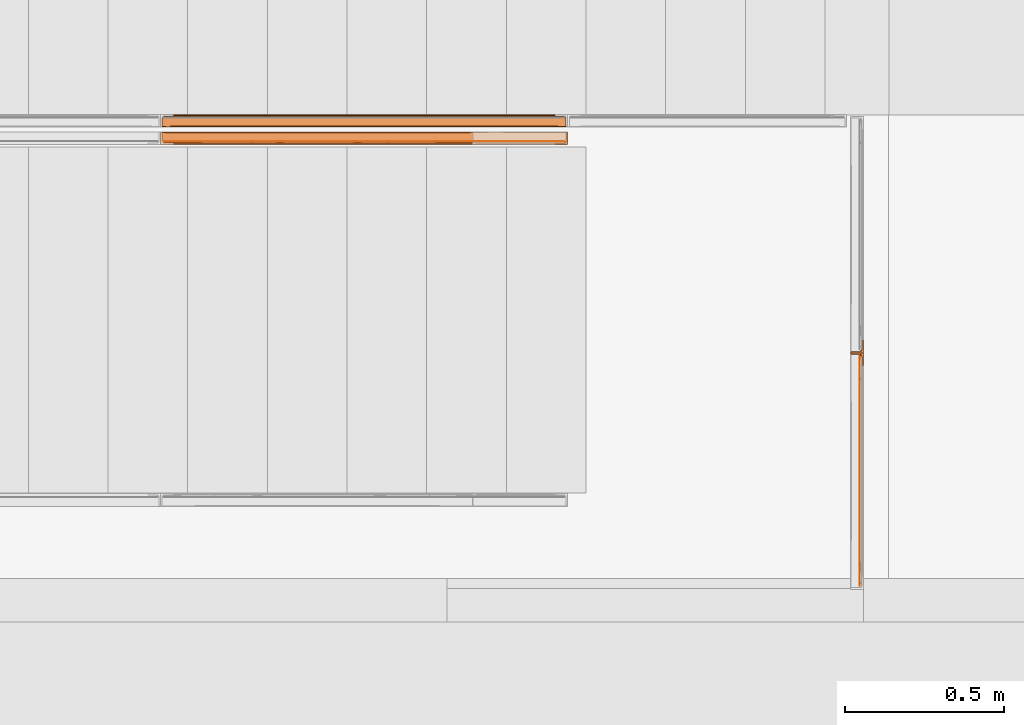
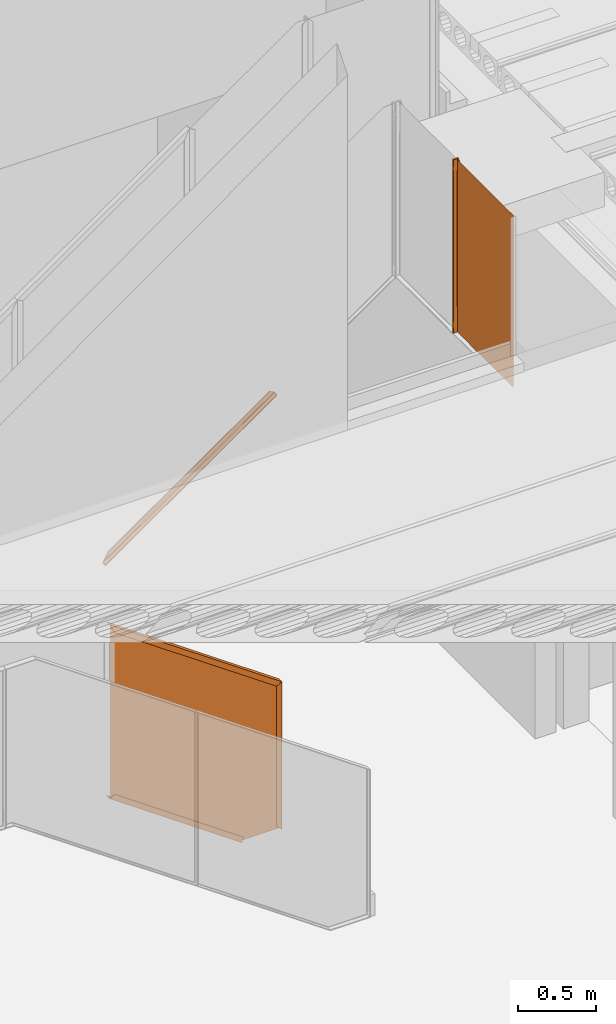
# One storey, part 223 of 230: 8 proxies.
"""IFC4X3_ADD2 building model written with IfcOpenShell, lengths in millimetres."""

from ifc_helpers import new_model, si_unit, direction, frame, origin_with_axes, place, context, subcontext, project, spatial, triangles, polygons, source, transform, mapped, material, type_object, type_shapes, element, save


model = new_model("IFC4X3_ADD2")

# Units and contexts
model_context = context("Model", 3, precision=1e-05, world=origin_with_axes(), true_north=direction((0.0, 1.0)))
body_context = subcontext(model_context, "Body", "Model", "MODEL_VIEW")
ifc_project = project(units=[si_unit("LENGTHUNIT", "METRE", prefix="MILLI"), si_unit("AREAUNIT", "SQUARE_METRE"), si_unit("VOLUMEUNIT", "CUBIC_METRE"), si_unit("PLANEANGLEUNIT", "RADIAN"), si_unit("TIMEUNIT", "SECOND"), si_unit("MASSUNIT", "GRAM")], contexts=[model_context])

# Site, building, storey
site_placement = place(None, origin_with_axes())
site = spatial("IfcSite", under=ifc_project, at=site_placement, Name="Site", CompositionType="ELEMENT")
building_placement = place(site_placement, origin_with_axes())
building = spatial("IfcBuilding", under=site, at=building_placement, Name="IFC Building Story")
storey_placement = place(building_placement, origin_with_axes())
storey = spatial("IfcBuildingStorey", under=building, at=storey_placement, Name="ETAGE 00 (0)", Elevation=0.0)

# Proxies
ifc_material = material(Name="<Unnamed>")
building_element_proxy_type_1 = type_object("IfcBuildingElementProxyType", Name="17", PredefinedType="NOTDEFINED")
shared_shape_1 = source(origin_with_axes(), body_context, "Body", "Tessellation", [
    polygons([(40.0000006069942, 0.0, 708.609635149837), (40.0000006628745, 1.99999910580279, 708.609635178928), (991.648139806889, 1.99999910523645, 40.0000003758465), (991.648139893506, 0.0, 40.00000024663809), (979.03618816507, 40.0, 0.0), (979.666785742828, 40.0, 2.0), (735.250089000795, 40.0, 173.707022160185), (246.416695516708, 40.0, 517.121066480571), (2.00000003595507, 40.0, 688.828087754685), (0.0, 40.0, 687.786953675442), (0.0, 0.0, 687.786953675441), (3.78223442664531, 39.4828827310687, 689.75586021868), (4.60444841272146, 38.5894394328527, 690.1838777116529), (5.000000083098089, 37.0000000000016, 690.389788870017), (5.000000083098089, 11.0000000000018, 690.389788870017), (5.12250915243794, 9.66173239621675, 690.453563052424), (5.72236770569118, 7.93305209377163, 690.765829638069), (6.97422061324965, 6.374650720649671, 691.417502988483), (8.62096939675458, 5.41338075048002, 692.2747461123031), (11.000000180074, 4.99999999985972, 693.513191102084), (37.0000006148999, 5.00000000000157, 707.0479341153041), (38.7828648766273, 4.481239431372, 707.9760344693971), (39.6040891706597, 3.58835486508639, 708.4035367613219), (980.649713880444, 9.698712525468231, 5.11744977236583), (494.769483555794, 7.99473516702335, 349.964452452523), (492.8063421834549, 11.0, 347.694893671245), (980.612682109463, 10.9999999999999, 5.0), (980.834811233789, 7.9807760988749, 5.704503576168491), (981.201028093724, 6.48005871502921, 6.86599506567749), (982.5044748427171, 5.000000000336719, 10.9999999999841), (981.697970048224, 5.48840116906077, 8.44209358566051), (990.70224335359, 5.00000000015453, 37.000000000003), (752.276682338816, 5.00000000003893, 204.511983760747), (275.425560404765, 4.99999999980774, 539.535951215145), (991.2135495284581, 4.57990552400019, 38.6216560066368), (991.5092714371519, 3.65668204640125, 39.559566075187), (980.177893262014, 39.5813205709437, 3.62102595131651), (980.4739634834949, 38.6576496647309, 4.56004072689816), (980.612821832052, 37.0002431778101, 5.000198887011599), (979.03618816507, 0.0, 0.0)], [[[1, 2, 3, 4]], [[8, 9, 10]], [[10, 7, 8]], [[10, 5, 7]], [[5, 6, 7]], [[20, 21, 22]], [[20, 22, 23]], [[20, 23, 2]], [[20, 2, 1]], [[20, 1, 11]], [[11, 19, 20]], [[11, 18, 19]], [[11, 17, 18]], [[11, 16, 17]], [[11, 15, 16]], [[11, 10, 9]], [[11, 9, 12]], [[11, 12, 13]], [[11, 13, 14]], [[11, 14, 15]], [[24, 25, 26]], [[26, 27, 24]], [[28, 29, 25]], [[25, 24, 28]], [[30, 20, 25]], [[25, 31, 30]], [[25, 29, 31]], [[17, 16, 25]], [[26, 25, 16]], [[16, 15, 26]], [[18, 17, 25]], [[20, 19, 25]], [[25, 19, 18]], [[34, 21, 20]], [[20, 33, 34]], [[20, 30, 33]], [[30, 32, 33]], [[35, 36, 33]], [[3, 2, 34, 33]], [[33, 36, 3]], [[2, 23, 34]], [[22, 21, 34]], [[34, 23, 22]], [[33, 32, 35]], [[37, 38, 7]], [[7, 6, 37]], [[39, 14, 8, 7]], [[7, 38, 39]], [[14, 13, 8]], [[12, 9, 8]], [[8, 13, 12]], [[11, 1, 4, 40]], [[40, 5, 10, 11]], [[26, 15, 14]], [[26, 14, 39]], [[39, 27, 26]], [[27, 39, 38]], [[27, 38, 37]], [[27, 37, 6]], [[27, 6, 5]], [[27, 5, 40]], [[40, 24, 27]], [[40, 28, 24]], [[40, 29, 28]], [[40, 31, 29]], [[40, 30, 31]], [[40, 4, 3]], [[40, 3, 36]], [[40, 36, 35]], [[40, 35, 32]], [[40, 32, 30]]]),
])
type_shapes(building_element_proxy_type_1, [shared_shape_1])
proxy_1_placement = place(storey_placement, frame((36336.6894781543, 1792.49996376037, 30.0), z_axis=(0.0, 0.0, 1.0), x_axis=(1.0, 0.0, 0.0)))
element("IfcBuildingElementProxy", 1, at=proxy_1_placement, inside=storey, type_object=building_element_proxy_type_1, material=ifc_material, Name="9:3076", ObjectType="9:3076", context=body_context, shape_type="MappedRepresentation", body=[
    mapped(shared_shape_1, transform((0.0, 0.0, 0.0))),
])
building_element_proxy_type_2 = type_object("IfcBuildingElementProxyType", Name="59", PredefinedType="NOTDEFINED")
shared_shape_2 = source(origin_with_axes(), body_context, "Body", "Tessellation", [
    polygons([(0.0, 2.00000000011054, 40.0), (0.0, 1.99999999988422, 999.578418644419), (0.0, 1.999999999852, 1136.6610498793), (0.0, 0.0, 1136.6610498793), (0.0, 0.0, 40.0), (0.0359632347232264, 2.46373286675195, 1136.67955720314), (0.49116332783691, 3.62589368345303, 1136.91381131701), (1.50339051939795, 4.57808372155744, 1137.43472154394), (3.00000000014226, 5.0, 1138.20490356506), (28.9999999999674, 5.00000000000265, 1151.5849688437), (31.3832040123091, 5.52769334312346, 1152.81140827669), (32.6907849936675, 6.319895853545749, 1153.48431284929), (33.7589297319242, 7.389811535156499, 1154.03399924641), (34.4304142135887, 8.47226099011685, 1154.37955717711), (34.9999999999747, 11.0, 1154.67267621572), (34.9999999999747, 37.0, 1154.67267621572), (35.035963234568, 37.4637328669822, 1154.69118353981), (35.4911633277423, 38.6258936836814, 1154.92543765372), (36.5033905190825, 39.5780837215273, 1155.44634788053), (37.9999999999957, 40.0000022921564, 1156.21652990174), (40.0, 40.00000460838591, 1157.24576569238), (40.0, 0.0, 1157.24576569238), (40.0, 39.9999976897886, 0.0), (40.0, 0.0, 0.0), (35.000000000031, 37.0, 5.0000000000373), (35.000000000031, 37.0, 1010.96359168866), (35.000000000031, 11.0, 868.298868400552), (35.000000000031, 11.0, 580.102457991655), (35.000000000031, 11.0, 291.772987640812), (35.000000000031, 11.0, 5.00000000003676), (29.0000000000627, 4.99999999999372, 11.0000000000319), (30.899262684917, 5.33900531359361, 9.10073731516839), (32.0395457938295, 7.99757189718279, 293.933278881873), (29.0000000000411, 4.99999999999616, 296.146242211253), (31.6093514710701, 5.63200438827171, 8.39064852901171), (32.8749080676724, 6.54008136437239, 7.125091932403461), (31.9552708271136, 7.93597486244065, 580.7049286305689), (31.9893229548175, 7.96980337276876, 867.3660122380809), (33.4136579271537, 6.92665146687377, 6.5863420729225), (34.3603314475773, 8.24421748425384, 5.63966855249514), (34.9944634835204, 10.7220050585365, 5.005536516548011), (3.00000000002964, 5.00000000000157, 1000.98209179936), (3.00000000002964, 4.99999999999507, 174.339239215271), (3.00000000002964, 4.99999999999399, 37.0000000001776), (0.26955326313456, 3.2752308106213, 39.7304467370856), (0.90380310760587, 4.145565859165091, 39.0961968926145), (1.94053166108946, 4.79022549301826, 38.0594683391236), (37.9999993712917, 39.9999978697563, 145.965692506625), (37.999999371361, 40.0000022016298, 1012.36726484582), (35.2695532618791, 38.2752308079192, 4.73044673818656), (35.9038031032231, 39.1455658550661, 4.09619689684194), (36.94053165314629, 39.79022548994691, 3.05946834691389), (37.9999999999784, 39.9999965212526, 2.00000000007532)], [[[2, 3, 4]], [[2, 4, 5]], [[5, 1, 2]], [[16, 17, 18]], [[16, 18, 19]], [[16, 19, 20]], [[16, 20, 21]], [[21, 22, 15]], [[21, 15, 16]], [[22, 14, 15]], [[22, 13, 14]], [[22, 12, 13]], [[22, 11, 12]], [[22, 10, 11]], [[22, 3, 6]], [[22, 6, 7]], [[22, 7, 8]], [[22, 8, 9]], [[22, 9, 10]], [[22, 4, 3]], [[23, 24, 22, 21]], [[26, 16, 15]], [[26, 15, 27]], [[29, 30, 25]], [[25, 28, 29]], [[25, 26, 28]], [[26, 27, 28]], [[31, 32, 33]], [[33, 34, 31]], [[35, 36, 33]], [[33, 32, 35]], [[10, 34, 37, 38]], [[38, 11, 10]], [[38, 12, 11]], [[14, 13, 27]], [[13, 27, 38, 12]], [[36, 39, 29]], [[40, 41, 29]], [[41, 30, 29]], [[29, 39, 40]], [[34, 33, 37]], [[33, 29, 28]], [[28, 37, 33]], [[29, 33, 36]], [[27, 15, 14]], [[38, 37, 28, 27]], [[42, 43, 34]], [[42, 34, 10]], [[10, 9, 42]], [[43, 44, 31]], [[43, 31, 34]], [[43, 42, 2, 1]], [[1, 45, 43]], [[46, 47, 43]], [[43, 45, 46]], [[47, 44, 43]], [[8, 2, 42]], [[6, 3, 2]], [[2, 7, 6]], [[2, 8, 7]], [[42, 9, 8]], [[24, 5, 4, 22]], [[48, 49, 26, 25]], [[25, 50, 48]], [[51, 52, 48]], [[48, 50, 51]], [[52, 53, 48]], [[19, 26, 49]], [[17, 16, 26]], [[26, 18, 17]], [[26, 19, 18]], [[49, 20, 19]], [[48, 53, 23]], [[23, 49, 48]], [[23, 21, 49]], [[21, 20, 49]], [[31, 44, 47]], [[31, 47, 46]], [[31, 46, 45]], [[31, 45, 1]], [[31, 1, 5]], [[31, 5, 24]], [[24, 32, 31]], [[24, 35, 32]], [[24, 36, 35]], [[24, 39, 36]], [[24, 40, 39]], [[24, 41, 40]], [[24, 30, 41]], [[24, 23, 53]], [[24, 53, 52]], [[24, 52, 51]], [[24, 51, 50]], [[24, 50, 25]], [[24, 25, 30]]]),
])
type_shapes(building_element_proxy_type_2, [shared_shape_2])
proxy_2_placement = place(storey_placement, frame((37574.1894781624, 1792.49996376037, 30.0), z_axis=(0.0, 0.0, 1.0), x_axis=(1.0, 0.0, 0.0)))
element("IfcBuildingElementProxy", 2, at=proxy_2_placement, inside=storey, type_object=building_element_proxy_type_2, material=ifc_material, Name="30", ObjectType="30", context=body_context, shape_type="MappedRepresentation", body=[
    mapped(shared_shape_2, transform((0.0, 0.0, 0.0))),
])
building_element_proxy_type_3 = type_object("IfcBuildingElementProxyType", Name="67", PredefinedType="NOTDEFINED")
shared_shape_3 = source(origin_with_axes(), body_context, "Body", "Tessellation", [
    polygons([(639.335342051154, 40.0, 464.974720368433), (798.8072629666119, 40.0, 353.3183167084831), (958.077614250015, 40.0, 241.803044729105), (1117.0179939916, 40.0, 130.518806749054), (1275.50000027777, 40.0, 19.5555050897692), (1277.49999918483, 39.9500210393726, 20.5847429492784), (2.33643743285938e-07, 40.049978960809, 915.09998312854), (2.00000026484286, 40.0, 911.2136054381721), (160.994180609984, 40.0, 799.8916982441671), (320.300398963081, 40.0, 688.35131345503), (479.79025341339, 40.0, 576.6823533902), (40.0, 0.0, 837.372411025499), (40.0, 2.00000000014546, 837.372411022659), (39.8915424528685, 2.91015381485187, 837.5831646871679), (39.6021713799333, 3.61722461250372, 838.145467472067), (38.4042937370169, 4.67685250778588, 840.4731705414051), (37.0000000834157, 4.99999999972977, 843.2019790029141), (11.0000002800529, 4.99939650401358, 893.724901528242), (8.60496045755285, 5.470661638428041, 898.378917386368), (7.411357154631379, 6.20275056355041, 900.698314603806), (6.702194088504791, 6.637711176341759, 902.076352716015), (5.857686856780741, 7.66312816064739, 903.7173901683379), (5.189340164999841, 9.290644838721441, 905.0161143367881), (5.0000003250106, 11.0000000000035, 905.3840374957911), (5.000000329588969, 37.0000000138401, 905.384037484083), (4.8988195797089, 37.890218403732, 905.580650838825), (4.59843441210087, 38.6365246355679, 906.164356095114), (3.41637317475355, 39.6801311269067, 908.4613248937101), (3.65437335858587e-07, 0.0, 915.099984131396), (1087.81250027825, 1.99999999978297, 104.671573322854), (938.125000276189, 1.99999999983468, 209.343121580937), (788.43750027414, 1.99999999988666, 314.014669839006), (638.750000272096, 1.99999999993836, 418.686218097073), (489.062500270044, 1.99999999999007, 523.357766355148), (339.375000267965, 2.00000000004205, 628.029314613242), (189.687500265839, 2.00000000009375, 732.700862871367), (1237.50000027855, 0.0, 2.50679040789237e-05), (1237.50000027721, 1.99999999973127, 2.50669424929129e-05), (1114.06250028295, 37.0000000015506, 128.933199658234), (955.625000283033, 37.0000000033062, 239.854747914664), (797.187500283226, 37.0000000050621, 350.776296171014), (638.750000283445, 37.0000000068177, 461.697844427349), (480.31250028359, 37.0000000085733, 572.619392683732), (321.87500028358, 37.0000000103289, 683.5409409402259), (163.437500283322, 37.0000000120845, 794.4624891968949), (321.725793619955, 11.0000000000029, 683.645400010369), (957.530284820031, 11.0000000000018, 238.520864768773), (1272.50000027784, 11.0000000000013, 18.0116514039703), (1272.50000027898, 36.999999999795, 18.011651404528), (324.875392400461, 4.99898858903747, 674.025193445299), (1266.50037882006, 4.99976620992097, 14.9244848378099), (955.054218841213, 7.94450247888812, 236.557479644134), (639.322088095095, 7.93409194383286, 457.545117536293), (1267.30751834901, 5.06268366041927, 15.3395072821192), (1270.20131426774, 6.35251787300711, 16.8287064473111), (1270.52675456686, 6.75939509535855, 16.9961838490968), (323.247708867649, 8.06895890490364, 678.9878877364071), (1271.94638634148, 8.534270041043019, 17.726751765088), (1277.5000000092, 0.0, 20.584740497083), (1272.53495865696, 37.450717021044, 18.02964161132), (1272.98925741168, 38.608767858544, 18.2634318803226), (187.244127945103, 4.99990579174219, 738.129949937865), (337.80040815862, 5.000028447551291, 632.839619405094), (488.540389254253, 5.00015125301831, 527.420819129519), (639.335619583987, 5.00027410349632, 421.963380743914), (790.057647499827, 5.00039689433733, 316.557135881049), (940.578021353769, 5.00051952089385, 211.291916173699), (1090.7682894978, 5.0006418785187, 106.257553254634), (1240.50000028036, 5.00076386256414, 1.54387875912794), (1237.53478395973, 2.448012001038, 0.0179253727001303), (1237.98897192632, 3.60480473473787, 0.251658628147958), (1239.04856093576, 4.59384149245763, 0.796942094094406)], [[[4, 5, 6]], [[6, 3, 4]], [[6, 2, 3]], [[6, 1, 2]], [[6, 7, 1]], [[10, 11, 1]], [[10, 1, 7]], [[7, 9, 10]], [[7, 8, 9]], [[8, 7, 29]], [[8, 29, 24]], [[24, 25, 26]], [[24, 26, 27]], [[24, 27, 28]], [[24, 28, 8]], [[29, 23, 24]], [[29, 22, 23]], [[29, 21, 22]], [[29, 20, 21]], [[29, 19, 20]], [[29, 18, 19]], [[29, 12, 13]], [[29, 13, 14]], [[29, 14, 15]], [[29, 15, 16]], [[29, 16, 17]], [[29, 17, 18]], [[36, 13, 12]], [[12, 35, 36]], [[12, 34, 35]], [[12, 33, 34]], [[12, 32, 33]], [[12, 31, 32]], [[12, 30, 31]], [[12, 37, 30]], [[37, 38, 30]], [[45, 25, 24]], [[45, 24, 46]], [[46, 44, 45]], [[46, 43, 44]], [[46, 42, 43]], [[42, 46, 47]], [[47, 41, 42]], [[47, 40, 41]], [[47, 39, 40]], [[47, 48, 49]], [[47, 49, 39]], [[50, 51, 52, 53]], [[51, 54, 52]], [[55, 56, 52]], [[52, 54, 55]], [[57, 46, 47, 53]], [[18, 50, 57]], [[57, 19, 18]], [[23, 22, 46]], [[22, 21, 46]], [[20, 57, 46]], [[46, 21, 20]], [[56, 58, 47]], [[58, 48, 47]], [[53, 52, 47]], [[47, 52, 56]], [[46, 24, 23]], [[57, 20, 19]], [[53, 57, 50]], [[6, 59, 29, 7]], [[59, 37, 12, 29]], [[43, 42, 1]], [[4, 39, 49]], [[49, 60, 4]], [[60, 61, 4]], [[61, 5, 4]], [[45, 44, 10]], [[44, 43, 11]], [[27, 26, 9]], [[9, 28, 27]], [[9, 8, 28]], [[9, 26, 25]], [[25, 45, 9]], [[40, 3, 2]], [[39, 4, 3]], [[42, 41, 2]], [[2, 1, 42]], [[3, 40, 39]], [[2, 41, 40]], [[11, 10, 44]], [[10, 9, 45]], [[1, 11, 43]], [[62, 63, 50]], [[50, 18, 17]], [[50, 17, 62]], [[68, 69, 51]], [[51, 67, 68]], [[51, 66, 67]], [[51, 65, 66]], [[51, 50, 65]], [[50, 64, 65]], [[50, 63, 64]], [[34, 33, 65]], [[68, 30, 38]], [[38, 70, 68]], [[70, 71, 68]], [[72, 69, 68]], [[68, 71, 72]], [[36, 35, 63]], [[35, 34, 64]], [[15, 14, 62]], [[62, 16, 15]], [[62, 17, 16]], [[62, 14, 13]], [[13, 36, 62]], [[31, 67, 66]], [[30, 68, 67]], [[33, 32, 66]], [[66, 65, 33]], [[67, 31, 30]], [[66, 32, 31]], [[64, 63, 35]], [[63, 62, 36]], [[65, 64, 34]], [[38, 37, 59]], [[59, 51, 69]], [[59, 69, 72]], [[59, 72, 71]], [[59, 71, 70]], [[59, 70, 38]], [[59, 54, 51]], [[59, 55, 54]], [[59, 56, 55]], [[59, 58, 56]], [[59, 48, 58]], [[59, 6, 49]], [[59, 49, 48]], [[6, 5, 61]], [[6, 61, 60]], [[6, 60, 49]]]),
])
type_shapes(building_element_proxy_type_3, [shared_shape_3])
proxy_3_placement = place(storey_placement, frame((36336.6894778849, 1792.49996376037, 1166.66102481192), z_axis=(0.0, 0.0, 1.0), x_axis=(1.0, 0.0, 0.0)))
element("IfcBuildingElementProxy", 3, at=proxy_3_placement, inside=storey, type_object=building_element_proxy_type_3, material=ifc_material, Name="34", ObjectType="34", context=body_context, shape_type="MappedRepresentation", body=[
    mapped(shared_shape_3, transform((0.0, 0.0, 0.0))),
])
building_element_proxy_type_4 = type_object("IfcBuildingElementProxyType", Name="71", PredefinedType="NOTDEFINED")
shared_shape_4 = source(origin_with_axes(), body_context, "Body", "Tessellation", [
    triangles([(1.80050483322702e-07, 0.0, 682.513191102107), (971.5044748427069, 0.0, 0.0), (1255.50000000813, 0.0, 0.0), (1255.50000000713, 0.0, 1140.58496884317), (0.0, 0.0, 2019.38592632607)], [[1, 2, 3], [1, 3, 4], [1, 4, 5]]),
])
type_shapes(building_element_proxy_type_4, [shared_shape_4])
proxy_4_placement = place(storey_placement, frame((36347.68947815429, 1803.49996376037, 40.9999999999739), z_axis=(0.0, 0.0, 1.0), x_axis=(1.0, 0.0, 0.0)))
element("IfcBuildingElementProxy", 4, at=proxy_4_placement, inside=storey, type_object=building_element_proxy_type_4, material=ifc_material, Name="36", ObjectType="36", context=body_context, shape_type="MappedRepresentation", body=[
    mapped(shared_shape_4, transform((0.0, 0.0, 0.0))),
])
building_element_proxy_type_5 = type_object("IfcBuildingElementProxyType", Name="95", PredefinedType="NOTDEFINED")
shared_shape_5 = source(origin_with_axes(), body_context, "Body", "Tessellation", [
    polygons([(1237.50000085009, 40.0162358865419, 915.3378124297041), (1237.50000084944, 38.0162360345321, 915.3378124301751), (40.0000003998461, 38.0162359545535, 76.8392850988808), (40.0000003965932, 40.0162358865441, 76.839285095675), (39.9003547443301, 37.1501473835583, 76.6478675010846), (39.5572149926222, 36.3392939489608, 75.98870217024), (38.1566366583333, 35.2432335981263, 73.2982162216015), (37.0000004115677, 35.016235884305, 71.0763386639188), (11.0000004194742, 35.0142540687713, 21.1308033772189), (8.12516833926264, 34.3231082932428, 15.6083023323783), (7.409715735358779, 33.8152595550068, 14.2339306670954), (6.54115574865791, 33.1987308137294, 12.5654424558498), (5.356916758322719, 31.280933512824, 10.2905405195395), (5.028181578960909, 29.698004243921, 9.65904611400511), (5.000000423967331, 29.016235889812, 9.60491061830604), (5.00000043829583, 3.01623589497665, 9.60491062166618), (4.84734171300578, 1.83046241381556, 9.311655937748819), (4.4718542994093, 1.044743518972, 8.59035132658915), (3.83561299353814, 0.457949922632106, 7.368143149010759), (2.25961841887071, 0.0307252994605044, 4.3406857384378), (2.00000044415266, 0.0285391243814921, 3.84196424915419), (7.40763414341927e-07, 0.0324720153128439, 5.64945317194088e-07), (4.27321026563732e-07, 40.0162358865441, 0.0), (1116.31250524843, 0.00742226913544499, 784.0919792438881), (1275.50000185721, 0.00412859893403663, 895.556264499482), (1277.50000183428, 0.00301994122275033, 894.515129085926), (161.187501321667, 0.0271842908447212, 115.306250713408), (321.875000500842, 29.0162358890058, 231.483174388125), (638.7500006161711, 29.0162358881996, 453.3614381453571), (955.625000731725, 29.0162358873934, 675.239701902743), (1272.50000084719, 29.0162358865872, 897.117965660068), (1272.5000008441, 3.016235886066, 897.1179656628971), (323.411018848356, 31.9559732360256, 236.101002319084), (1271.5198421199, 32.2326689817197, 897.6282039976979), (1272.42901127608, 29.9231133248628, 897.154920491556), (953.157897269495, 32.0610902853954, 677.214290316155), (1269.41633031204, 34.1977621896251, 898.7232229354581), (1266.50000084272, 35.0151457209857, 900.2413679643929), (325.043869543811, 35.01447710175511, 241.026687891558), (638.168819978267, 32.0799058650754, 456.677359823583), (187.437476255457, 35.0160985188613, 176.413793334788), (1090.06251949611, 35.0167395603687, 808.4386527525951), (1240.50000087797, 35.0168464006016, 913.776111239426), (1237.77400644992, 36.7920982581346, 915.19517414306), (1238.64480967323, 35.6988863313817, 914.7418626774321), (1277.50000084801, 40.0162358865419, 894.5151304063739), (1272.8219762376, 1.59861494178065, 896.950355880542), (1273.66157248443, 0.59458114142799, 896.5132897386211)], [[[1, 2, 3, 4]], [[21, 22, 23]], [[21, 23, 15]], [[15, 16, 17]], [[15, 17, 18]], [[15, 18, 19]], [[15, 19, 20]], [[15, 20, 21]], [[23, 14, 15]], [[23, 13, 14]], [[23, 12, 13]], [[23, 11, 12]], [[23, 10, 11]], [[23, 9, 10]], [[23, 4, 8]], [[23, 8, 9]], [[4, 3, 5]], [[4, 5, 6]], [[4, 6, 7]], [[4, 7, 8]], [[24, 25, 26]], [[27, 24, 26]], [[26, 22, 27]], [[22, 21, 27]], [[30, 31, 32]], [[32, 29, 30]], [[32, 28, 29]], [[32, 16, 28]], [[16, 15, 28]], [[13, 12, 28]], [[28, 14, 13]], [[11, 33, 28]], [[28, 12, 11]], [[34, 35, 36]], [[30, 36, 35]], [[35, 31, 30]], [[37, 34, 36]], [[38, 37, 36]], [[9, 39, 33]], [[33, 10, 9]], [[33, 40, 29]], [[39, 38, 36, 40]], [[40, 33, 39]], [[29, 28, 33]], [[33, 11, 10]], [[28, 15, 14]], [[30, 29, 40, 36]], [[39, 9, 8]], [[39, 8, 41]], [[42, 43, 38]], [[38, 39, 41]], [[38, 41, 42]], [[6, 5, 41]], [[41, 7, 6]], [[41, 8, 7]], [[41, 5, 3]], [[3, 2, 42, 41]], [[2, 44, 42]], [[45, 43, 42]], [[42, 44, 45]], [[46, 1, 4, 23]], [[23, 22, 26, 46]], [[18, 17, 27]], [[27, 19, 18]], [[27, 20, 19]], [[27, 21, 20]], [[27, 17, 16]], [[16, 32, 24, 27]], [[32, 47, 24]], [[48, 25, 24]], [[24, 47, 48]], [[38, 43, 45]], [[38, 45, 44]], [[38, 44, 2]], [[38, 2, 1]], [[38, 1, 46]], [[46, 37, 38]], [[46, 34, 37]], [[46, 35, 34]], [[46, 31, 35]], [[46, 26, 25]], [[46, 25, 48]], [[46, 48, 47]], [[46, 47, 32]], [[46, 32, 31]]]),
])
type_shapes(building_element_proxy_type_5, [shared_shape_5])
proxy_5_placement = place(storey_placement, frame((36336.6894773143, 1847.48372787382, 2507.03385097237), z_axis=(0.0, 0.0, 1.0), x_axis=(1.0, 0.0, 0.0)))
element("IfcBuildingElementProxy", 5, at=proxy_5_placement, inside=storey, type_object=building_element_proxy_type_5, material=ifc_material, Name="48", ObjectType="48", context=body_context, shape_type="MappedRepresentation", body=[
    mapped(shared_shape_5, transform((0.0, 0.0, 0.0))),
])
building_element_proxy_type_6 = type_object("IfcBuildingElementProxyType", Name="115", PredefinedType="NOTDEFINED")
shared_shape_6 = source(origin_with_axes(), body_context, "Body", "Tessellation", [
    polygons([(38.0000389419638, 40.0, 1330.0), (38.0000389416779, 40.0, 40.0), (40.0000389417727, 40.0, 40.0), (40.0000389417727, 40.0, 1330.0), (40.0000389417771, 0.0, 1370.0), (1.97012470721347e-05, 0.0, 1370.0), (1.00795438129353e-05, 1.99999996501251, 1368.00000004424), (0.6799519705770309, 4.04174058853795, 1365.9582594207), (1.4299959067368, 4.64110857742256, 1365.35889143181), (3.00003894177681, 5.00000000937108, 1364.99999999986), (29.0000389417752, 5.00000000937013, 1364.99999999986), (31.8308632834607, 5.562449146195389, 1364.43755086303), (33.4462205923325, 6.69317965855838, 1363.30682035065), (34.5258913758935, 8.38084043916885, 1361.61915957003), (34.9906237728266, 10.6125554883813, 1359.3874445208), (35.0000389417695, 11.0000000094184, 1358.99999999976), (35.0000389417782, 37.0000000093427, 1332.99999999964), (35.6799514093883, 39.0417406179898, 1330.95825939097), (36.4299957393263, 39.6411086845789, 1330.35889132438), (33.4462162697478, 6.693178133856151, 6.693178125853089), (34.525889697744, 8.38083947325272, 8.3808394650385), (32.012885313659, 7.99419312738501, 685.000000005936), (34.9906234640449, 10.6125497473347, 10.6125497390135), (35.0000389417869, 11.0000000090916, 11.0000000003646), (31.8308604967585, 5.56244935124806, 5.56244934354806), (29.0000389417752, 5.00000000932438, 685.000000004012), (29.0000389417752, 5.00000000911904, 5.000000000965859), (35.0000389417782, 37.0000000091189, 37.0000000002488), (35.0000389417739, 37.0000000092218, 361.000000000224), (35.0000389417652, 37.0000000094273, 1008.99999999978), (35.6799484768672, 39.0417401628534, 39.0417401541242), (36.4299895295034, 39.64110705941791, 39.641107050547), (0.67994723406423, 4.04174009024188, 4.04174008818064), (1.42998921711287, 4.64110725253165, 4.64110725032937), (4.21506809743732e-05, 2.00000001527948, 343.500000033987), (5.28410614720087e-05, 2.00000003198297, 2.00000002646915), (3.00003894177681, 5.000000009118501, 5.00000000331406), (2.34382995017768e-05, 1.99999731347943, 1026.50000001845), (4.2886736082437e-05, 0.0, 0.0), (40.0000389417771, 0.0, 0.0)], [[[1, 2, 3, 4]], [[16, 17, 18]], [[16, 18, 19]], [[16, 19, 1]], [[16, 1, 4]], [[16, 4, 5]], [[5, 15, 16]], [[5, 14, 15]], [[5, 13, 14]], [[5, 12, 13]], [[5, 11, 12]], [[5, 6, 7]], [[5, 7, 8]], [[5, 8, 9]], [[5, 9, 10]], [[5, 10, 11]], [[20, 21, 22]], [[21, 23, 22]], [[24, 16, 22]], [[22, 23, 24]], [[25, 22, 26]], [[26, 27, 25]], [[25, 20, 22]], [[16, 15, 22]], [[13, 12, 22]], [[22, 14, 13]], [[22, 15, 14]], [[12, 11, 26]], [[26, 22, 12]], [[30, 17, 16]], [[16, 29, 30]], [[16, 24, 29]], [[24, 28, 29]], [[31, 32, 29]], [[29, 28, 31]], [[29, 32, 2]], [[2, 1, 30, 29]], [[1, 19, 30]], [[18, 17, 30]], [[30, 19, 18]], [[33, 34, 35]], [[35, 36, 33]], [[35, 34, 37]], [[37, 10, 38, 35]], [[10, 9, 38]], [[8, 7, 38]], [[38, 9, 8]], [[38, 7, 6]], [[6, 35, 38]], [[6, 39, 35]], [[39, 36, 35]], [[5, 4, 3, 40]], [[6, 5, 40, 39]], [[26, 11, 10]], [[26, 10, 37]], [[37, 27, 26]], [[27, 37, 34]], [[27, 34, 33]], [[27, 33, 36]], [[27, 36, 39]], [[27, 39, 40]], [[40, 25, 27]], [[40, 20, 25]], [[40, 21, 20]], [[40, 23, 21]], [[40, 24, 23]], [[40, 3, 2]], [[40, 2, 32]], [[40, 32, 31]], [[40, 31, 28]], [[40, 28, 24]]]),
])
type_shapes(building_element_proxy_type_6, [shared_shape_6])
proxy_6_placement = place(storey_placement, frame((38502.1183714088, 1138.70180096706, 4000.0), z_axis=(0.0, 0.0, 1.0), x_axis=(1.0, 0.0, 0.0)))
element("IfcBuildingElementProxy", 6, at=proxy_6_placement, inside=storey, type_object=building_element_proxy_type_6, material=ifc_material, Name="60", ObjectType="60", context=body_context, shape_type="MappedRepresentation", body=[
    mapped(shared_shape_6, transform((0.0, 0.0, 0.0))),
])
building_element_proxy_type_7 = type_object("IfcBuildingElementProxyType", Name="119", PredefinedType="NOTDEFINED")
shared_shape_7 = source(origin_with_axes(), body_context, "Body", "Tessellation", [
    triangles([(38542.1195251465, 1098.70175914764, 4039.99991455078), (38540.1173217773, 1098.70175914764, 4039.99991455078), (38540.1173217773, 1098.70175914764, 5330.00024414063), (38542.1195251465, 1098.70175914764, 5330.00024414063), (38537.1175048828, 1101.70179405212, 5333.00006103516), (38539.0569213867, 1098.88270740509, 5330.181047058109), (38538.0383789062, 1099.53775463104, 5330.83565826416), (38537.1175048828, 1127.70180587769, 5359.00021820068), (38542.1195251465, 1138.70178852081, 5370.00012817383), (38536.8035705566, 1129.53018264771, 5360.8285949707), (38535.9454833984, 1131.234075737, 5362.53197937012), (38533.9432800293, 1133.02648086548, 5364.324893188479), (38531.1178710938, 1133.70180301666, 5364.99985198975), (38502.1173156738, 1138.70178852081, 5370.00012817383), (38505.1194580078, 1133.70180301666, 5364.99985198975), (38504.0567321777, 1133.88275127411, 5365.18065490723), (38503.0381896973, 1134.53772583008, 5365.83584747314), (38502.1173156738, 1136.70176525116, 5368.00025024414), (38502.1196411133, 1138.70178852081, 4000.00003051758), (38542.1195251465, 1138.70178852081, 4000.00003051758), (38505.1194580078, 1133.70180301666, 4005.00001602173), (38531.1178710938, 1133.70180301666, 4344.99990234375), (38531.1178710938, 1133.70180301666, 4005.00001602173), (38531.1178710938, 1133.70180301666, 4685.0000793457), (38531.1178710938, 1133.70180301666, 5025.00025634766), (38534.1339660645, 1130.72247905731, 5022.94921875), (38533.8921203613, 1133.0629611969, 4005.63893051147), (38531.3899475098, 1133.69664344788, 4005.0052482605), (38535.547833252, 1131.76413059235, 4006.93768844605), (38534.1223388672, 1130.71688346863, 4347.048614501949), (38537.1175048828, 1127.70180587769, 4010.99994049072), (38536.7803161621, 1129.62327289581, 4009.07854614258), (38534.2223327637, 1130.61332874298, 4684.99978866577), (38537.1175048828, 1127.70151519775, 5020.87492675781), (38537.1175048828, 1101.70179405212, 4199.00009307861), (38537.1175048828, 1101.70179405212, 4037.00009765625), (38537.1175048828, 1101.70179405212, 5171.00006561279), (38538.8360046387, 1098.9702747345, 4039.73161697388), (38537.9662902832, 1099.60184955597, 4039.09996948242), (38502.1173156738, 1136.70176525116, 5197.25020751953), (38502.1196411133, 1136.70176525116, 4172.74995117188), (38503.8358154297, 1133.97024593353, 4004.73142776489), (38502.9661010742, 1134.601820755, 4004.09978027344), (38502.1196411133, 1136.70176525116, 4001.99990844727)], [[1, 2, 3], [3, 4, 1], [5, 4, 3], [6, 7, 3], [5, 3, 7], [4, 8, 9], [8, 4, 5], [8, 10, 9], [9, 10, 11], [11, 12, 9], [13, 14, 9], [12, 13, 9], [15, 16, 17], [18, 14, 15], [18, 15, 17], [15, 14, 13], [14, 19, 9], [20, 9, 19], [21, 22, 23], [22, 21, 24], [24, 15, 25], [15, 24, 21], [13, 25, 15], [13, 26, 25], [12, 11, 26], [26, 13, 12], [22, 27, 28], [22, 28, 23], [22, 29, 27], [30, 31, 32], [31, 30, 33], [33, 34, 31], [30, 32, 29], [11, 10, 26], [8, 34, 26], [26, 10, 8], [26, 33, 24], [33, 26, 34], [24, 25, 26], [29, 22, 30], [30, 22, 24], [24, 33, 30], [31, 35, 36], [35, 31, 34], [34, 8, 37], [5, 37, 8], [34, 37, 35], [7, 6, 37], [37, 5, 7], [37, 6, 3], [37, 3, 35], [2, 35, 3], [35, 2, 38], [35, 39, 36], [35, 38, 39], [20, 1, 4], [4, 9, 20], [17, 16, 40], [40, 18, 17], [40, 16, 15], [40, 15, 41], [21, 41, 15], [41, 21, 42], [41, 43, 44], [41, 42, 43], [14, 18, 40], [14, 40, 41], [41, 44, 19], [41, 19, 14], [1, 31, 36], [31, 1, 20], [32, 31, 20], [29, 32, 20], [2, 1, 36], [2, 39, 38], [39, 2, 36], [44, 43, 21], [19, 44, 21], [42, 21, 43], [27, 29, 20], [28, 20, 23], [21, 23, 19], [27, 20, 28], [23, 20, 19]]),
])
type_shapes(building_element_proxy_type_7, [shared_shape_7])
proxy_7_placement = place(storey_placement, origin_with_axes())
element("IfcBuildingElementProxy", 7, at=proxy_7_placement, inside=storey, type_object=building_element_proxy_type_7, material=ifc_material, Name="62", ObjectType="62", context=body_context, shape_type="MappedRepresentation", body=[
    mapped(shared_shape_7, transform((0.0, 0.0, 0.0))),
])
building_element_proxy_type_8 = type_object("IfcBuildingElementProxyType", Name="121", PredefinedType="NOTDEFINED")
shared_shape_8 = source(origin_with_axes(), body_context, "Body", "Tessellation", [
    polygons([(0.0, 719.7270949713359, 0.0), (0.0, 0.0, 0.0), (0.0, 0.0, 1347.99999999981), (0.0, 719.7270949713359, 1347.9999999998)], [[[1, 2, 3, 4]]]),
])
type_shapes(building_element_proxy_type_8, [shared_shape_8])
proxy_8_placement = place(storey_placement, frame((38531.1184103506, 407.97470600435, 4011.00000000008), z_axis=(0.0, 0.0, 1.0), x_axis=(1.0, 0.0, 0.0)))
element("IfcBuildingElementProxy", 8, at=proxy_8_placement, inside=storey, type_object=building_element_proxy_type_8, material=ifc_material, Name="63", ObjectType="63", context=body_context, shape_type="MappedRepresentation", body=[
    mapped(shared_shape_8, transform((0.0, 0.0, 0.0))),
])

save(model, "model.ifc")
